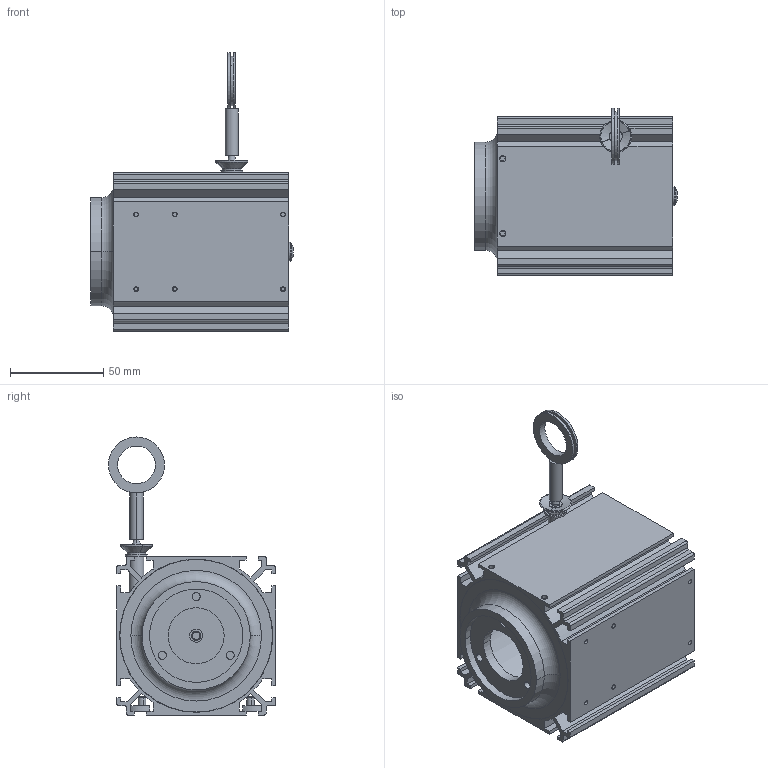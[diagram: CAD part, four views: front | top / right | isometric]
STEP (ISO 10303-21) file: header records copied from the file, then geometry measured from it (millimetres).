
FILE_DESCRIPTION((''),'2;1');
FILE_NAME('','2007-03-20T',(''),(''),'PRO/ENGINEER BY PARAMETRIC TECHNOLOGY CORPORATION, 2003250','PRO/ENGINEER BY PARAMETRIC TECHNOLOGY CORPORATION, 2003250','');
FILE_SCHEMA(('CONFIG_CONTROL_DESIGN'));
Length unit declared in the file: millimetre
Bounding box: 108.47 x 89.5 x 149 mm (x, y, z)
Volume: 181745.2 mm3; surface area: 110736.1 mm2
Topology: 2 solids, 5 shells, 586 faces, 1531 edges, 997 vertices
Faces by surface type: plane 288, cylinder 186, cone 66, torus 44, sphere 2
Entity records: 19070 total; most frequent: CARTESIAN_POINT 4319, DIRECTION 3113, ORIENTED_EDGE 3054, EDGE_CURVE 1527, AXIS2_PLACEMENT_3D 1162, VERTEX_POINT 997, VECTOR 789, LINE 789
